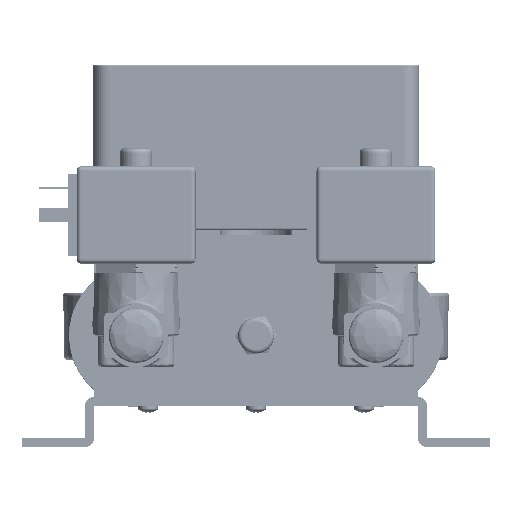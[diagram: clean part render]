
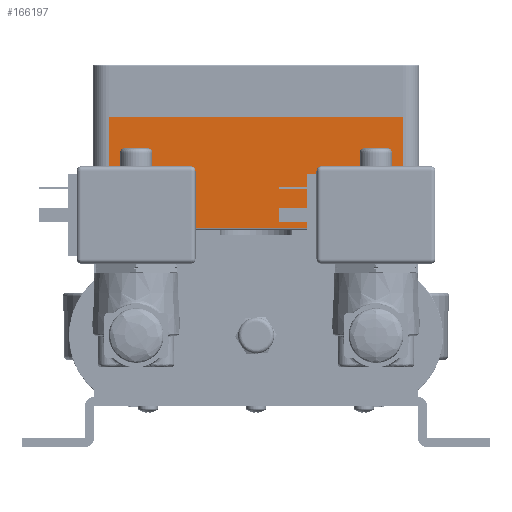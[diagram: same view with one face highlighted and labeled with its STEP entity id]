
A CAD part, front view. The second image highlights one B-rep face of the part: STEP entity #166197.
In plain terms, the highlighted planar face has unit normal (0, -1, 0).
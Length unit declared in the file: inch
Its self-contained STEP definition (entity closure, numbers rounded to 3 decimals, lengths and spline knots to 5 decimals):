
#13547 = CARTESIAN_POINT ( 'NONE',  ( -1.29525, -5.5535, 1.6358 ) ) ;
#31886 = EDGE_CURVE ( 'NONE', #42965, #140378, #265278, .T. ) ;
#42965 = VERTEX_POINT ( 'NONE', #13547 ) ;
#49189 = LINE ( 'NONE', #153568, #209386 ) ;
#74665 = DIRECTION ( 'NONE',  ( 1., 0., 0. ) ) ;
#82812 = CARTESIAN_POINT ( 'NONE',  ( -1.29525, -5.5535, 0.0998 ) ) ;
#94099 = DIRECTION ( 'NONE',  ( 0., 0., -1. ) ) ;
#94869 = DIRECTION ( 'NONE',  ( 0., 0., -1. ) ) ;
#105171 = DIRECTION ( 'NONE',  ( 0., 0., -1. ) ) ;
#105583 = LINE ( 'NONE', #231542, #151880 ) ;
#106220 = FACE_OUTER_BOUND ( 'NONE', #216802, .T. ) ;
#113134 = ORIENTED_EDGE ( 'NONE', *, *, #31886, .F. ) ;
#116522 = PLANE ( 'NONE',  #147331 ) ;
#121935 = VECTOR ( 'NONE', #333474, 39.37008 ) ;
#140378 = VERTEX_POINT ( 'NONE', #237181 ) ;
#140833 = EDGE_CURVE ( 'NONE', #140378, #321189, #105583, .T. ) ;
#147331 = AXIS2_PLACEMENT_3D ( 'NONE', #303889, #226148, #94099 ) ;
#151880 = VECTOR ( 'NONE', #94869, 39.37008 ) ;
#153568 = CARTESIAN_POINT ( 'NONE',  ( 2.79525, -5.5535, 0.0998 ) ) ;
#156807 = ORIENTED_EDGE ( 'NONE', *, *, #349813, .T. ) ;
#166197 = ADVANCED_FACE ( 'NONE', ( #106220 ), #116522, .F. ) ;
#195857 = CARTESIAN_POINT ( 'NONE',  ( 2.79525, -5.5535, 0.0998 ) ) ;
#202134 = VECTOR ( 'NONE', #105171, 39.37008 ) ;
#209386 = VECTOR ( 'NONE', #74665, 39.37008 ) ;
#216802 = EDGE_LOOP ( 'NONE', ( #245907, #156807, #314189, #113134 ) ) ;
#217427 = EDGE_CURVE ( 'NONE', #42965, #228404, #239936, .T. ) ;
#226148 = DIRECTION ( 'NONE',  ( 0., 1., 0. ) ) ;
#228404 = VERTEX_POINT ( 'NONE', #82812 ) ;
#231542 = CARTESIAN_POINT ( 'NONE',  ( 2.79525, -5.5535, 1.6358 ) ) ;
#237181 = CARTESIAN_POINT ( 'NONE',  ( 2.79525, -5.5535, 1.6358 ) ) ;
#239936 = LINE ( 'NONE', #254996, #202134 ) ;
#245907 = ORIENTED_EDGE ( 'NONE', *, *, #217427, .T. ) ;
#254996 = CARTESIAN_POINT ( 'NONE',  ( -1.29525, -5.5535, 1.6358 ) ) ;
#265278 = LINE ( 'NONE', #282816, #121935 ) ;
#282816 = CARTESIAN_POINT ( 'NONE',  ( -1.29525, -5.5535, 1.6358 ) ) ;
#303889 = CARTESIAN_POINT ( 'NONE',  ( -1.29525, -5.5535, 1.6358 ) ) ;
#314189 = ORIENTED_EDGE ( 'NONE', *, *, #140833, .F. ) ;
#321189 = VERTEX_POINT ( 'NONE', #195857 ) ;
#333474 = DIRECTION ( 'NONE',  ( 1., 0., 0. ) ) ;
#349813 = EDGE_CURVE ( 'NONE', #228404, #321189, #49189, .T. ) ;
